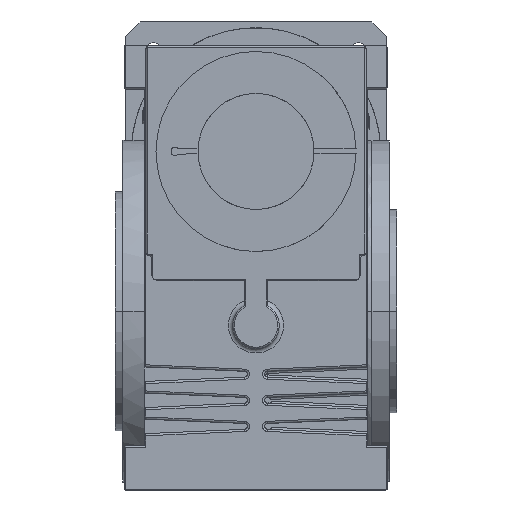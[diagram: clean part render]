
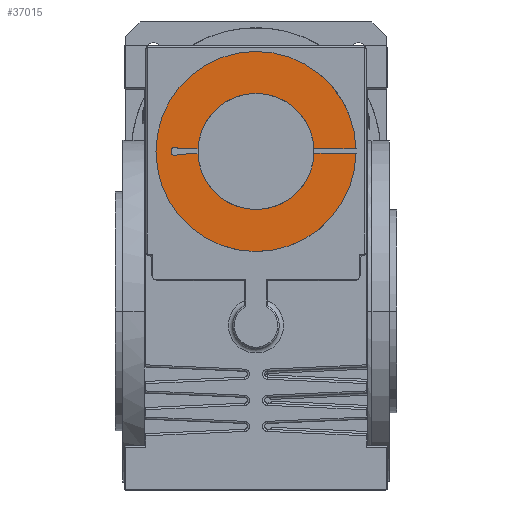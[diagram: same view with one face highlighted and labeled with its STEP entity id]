
A CAD part, top view. The second image highlights one B-rep face of the part: STEP entity #37015.
In plain terms, the highlighted planar face has unit normal (0, 0, 1).
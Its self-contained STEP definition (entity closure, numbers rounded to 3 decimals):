
#32 = CARTESIAN_POINT ( 'NONE',  ( 0., 110., 151.75 ) ) ;
#2816 = AXIS2_PLACEMENT_3D ( 'NONE', #55144, #49443, #39641 ) ;
#3433 = DIRECTION ( 'NONE',  ( 1., 0., 0. ) ) ;
#6496 = EDGE_CURVE ( 'NONE', #11795, #29414, #62085, .T. ) ;
#6580 = DIRECTION ( 'NONE',  ( 1., 0., 0. ) ) ;
#6729 = DIRECTION ( 'NONE',  ( 0., 0., -1. ) ) ;
#6870 = CARTESIAN_POINT ( 'NONE',  ( -58.595, 110., 151.75 ) ) ;
#9274 = DIRECTION ( 'NONE',  ( 1., 0., 0. ) ) ;
#9608 = EDGE_CURVE ( 'NONE', #31025, #11795, #64934, .T. ) ;
#10547 = ORIENTED_EDGE ( 'NONE', *, *, #46167, .T. ) ;
#11795 = VERTEX_POINT ( 'NONE', #66334 ) ;
#12277 = DIRECTION ( 'NONE',  ( 0., 0., 1. ) ) ;
#12299 = CARTESIAN_POINT ( 'NONE',  ( -69., 110., 151.75 ) ) ;
#13390 = DIRECTION ( 'NONE',  ( 0., 0., 1. ) ) ;
#14177 = CIRCLE ( 'NONE', #2816, 69. ) ;
#14194 = CARTESIAN_POINT ( 'NONE',  ( 39.985, 111.762, 151.75 ) ) ;
#15702 = EDGE_LOOP ( 'NONE', ( #29615, #58902, #67537, #18609, #20797, #25439, #66002, #53809, #22540, #10547 ) ) ;
#15950 = LINE ( 'NONE', #48386, #48617 ) ;
#16032 = DIRECTION ( 'NONE',  ( 0., 0., -1. ) ) ;
#16319 = EDGE_CURVE ( 'NONE', #36011, #18263, #64016, .T. ) ;
#16859 = AXIS2_PLACEMENT_3D ( 'NONE', #48689, #6729, #43250 ) ;
#18263 = VERTEX_POINT ( 'NONE', #49962 ) ;
#18609 = ORIENTED_EDGE ( 'NONE', *, *, #16319, .T. ) ;
#19349 = CARTESIAN_POINT ( 'NONE',  ( 0., 110., 151.75 ) ) ;
#19795 = DIRECTION ( 'NONE',  ( 0., 0., -1. ) ) ;
#19952 = VERTEX_POINT ( 'NONE', #20592 ) ;
#20453 = VECTOR ( 'NONE', #31207, 1000. ) ;
#20560 = VERTEX_POINT ( 'NONE', #56741 ) ;
#20592 = CARTESIAN_POINT ( 'NONE',  ( -39.988, 108.288, 151.75 ) ) ;
#20797 = ORIENTED_EDGE ( 'NONE', *, *, #32667, .T. ) ;
#21275 = VECTOR ( 'NONE', #3433, 1000. ) ;
#22406 = CARTESIAN_POINT ( 'NONE',  ( -55.723, 110., 151.75 ) ) ;
#22540 = ORIENTED_EDGE ( 'NONE', *, *, #30451, .T. ) ;
#24613 = AXIS2_PLACEMENT_3D ( 'NONE', #58318, #12277, #6580 ) ;
#24862 = CARTESIAN_POINT ( 'NONE',  ( 39.999, 108.585, 151.75 ) ) ;
#25439 = ORIENTED_EDGE ( 'NONE', *, *, #9608, .T. ) ;
#25545 = CARTESIAN_POINT ( 'NONE',  ( 39.999, 108.585, 151.75 ) ) ;
#26008 = AXIS2_PLACEMENT_3D ( 'NONE', #64687, #13390, #33407 ) ;
#26062 = DIRECTION ( 'NONE',  ( 1., 0., 0. ) ) ;
#26158 = CIRCLE ( 'NONE', #50088, 2.872 ) ;
#28624 = VERTEX_POINT ( 'NONE', #12299 ) ;
#29385 = DIRECTION ( 'NONE',  ( 1., 0., 0. ) ) ;
#29414 = VERTEX_POINT ( 'NONE', #29917 ) ;
#29615 = ORIENTED_EDGE ( 'NONE', *, *, #49146, .T. ) ;
#29917 = CARTESIAN_POINT ( 'NONE',  ( 68.977, 111.762, 151.75 ) ) ;
#30451 = EDGE_CURVE ( 'NONE', #28624, #20560, #49554, .T. ) ;
#31025 = VERTEX_POINT ( 'NONE', #54537 ) ;
#31207 = DIRECTION ( 'NONE',  ( -1., -0.004, 0. ) ) ;
#31339 = EDGE_CURVE ( 'NONE', #19952, #40599, #15950, .T. ) ;
#31858 = FACE_OUTER_BOUND ( 'NONE', #15702, .T. ) ;
#32125 = VECTOR ( 'NONE', #52222, 1000. ) ;
#32667 = EDGE_CURVE ( 'NONE', #18263, #31025, #59090, .T. ) ;
#33407 = DIRECTION ( 'NONE',  ( 1., 0., 0. ) ) ;
#35767 = AXIS2_PLACEMENT_3D ( 'NONE', #19349, #19795, #29385 ) ;
#36011 = VERTEX_POINT ( 'NONE', #6870 ) ;
#36731 = CARTESIAN_POINT ( 'NONE',  ( -53.455, 111.762, 151.75 ) ) ;
#37015 = ADVANCED_FACE ( 'NONE', ( #31858 ), #37346, .T. ) ;
#37346 = PLANE ( 'NONE',  #24613 ) ;
#39641 = DIRECTION ( 'NONE',  ( 1., 0., 0. ) ) ;
#40599 = VERTEX_POINT ( 'NONE', #57683 ) ;
#40713 = EDGE_CURVE ( 'NONE', #29414, #28624, #14177, .T. ) ;
#43250 = DIRECTION ( 'NONE',  ( 1., 0., 0. ) ) ;
#45937 = EDGE_CURVE ( 'NONE', #40599, #36011, #26158, .T. ) ;
#46167 = EDGE_CURVE ( 'NONE', #20560, #62915, #59569, .T. ) ;
#48386 = CARTESIAN_POINT ( 'NONE',  ( -53.455, 108.238, 151.75 ) ) ;
#48617 = VECTOR ( 'NONE', #59500, 1000. ) ;
#48689 = CARTESIAN_POINT ( 'NONE',  ( -55.723, 110., 151.75 ) ) ;
#49146 = EDGE_CURVE ( 'NONE', #62915, #19952, #62628, .T. ) ;
#49443 = DIRECTION ( 'NONE',  ( 0., 0., 1. ) ) ;
#49554 = CIRCLE ( 'NONE', #26008, 69. ) ;
#49962 = CARTESIAN_POINT ( 'NONE',  ( -53.455, 111.762, 151.75 ) ) ;
#50088 = AXIS2_PLACEMENT_3D ( 'NONE', #22406, #53304, #9274 ) ;
#52222 = DIRECTION ( 'NONE',  ( 1., 0., 0. ) ) ;
#53304 = DIRECTION ( 'NONE',  ( 0., 0., -1. ) ) ;
#53809 = ORIENTED_EDGE ( 'NONE', *, *, #40713, .T. ) ;
#54537 = CARTESIAN_POINT ( 'NONE',  ( -39.985, 111.762, 151.75 ) ) ;
#55144 = CARTESIAN_POINT ( 'NONE',  ( 0., 110., 151.75 ) ) ;
#55302 = AXIS2_PLACEMENT_3D ( 'NONE', #32, #16032, #26062 ) ;
#56741 = CARTESIAN_POINT ( 'NONE',  ( 68.988, 108.693, 151.75 ) ) ;
#57683 = CARTESIAN_POINT ( 'NONE',  ( -53.455, 108.238, 151.75 ) ) ;
#58318 = CARTESIAN_POINT ( 'NONE',  ( 0., 110., 151.75 ) ) ;
#58902 = ORIENTED_EDGE ( 'NONE', *, *, #31339, .T. ) ;
#59090 = LINE ( 'NONE', #36731, #32125 ) ;
#59500 = DIRECTION ( 'NONE',  ( -1., -0.004, 0. ) ) ;
#59569 = LINE ( 'NONE', #25545, #20453 ) ;
#62085 = LINE ( 'NONE', #14194, #21275 ) ;
#62628 = CIRCLE ( 'NONE', #35767, 40.024 ) ;
#62915 = VERTEX_POINT ( 'NONE', #24862 ) ;
#64016 = CIRCLE ( 'NONE', #16859, 2.872 ) ;
#64687 = CARTESIAN_POINT ( 'NONE',  ( 0., 110., 151.75 ) ) ;
#64934 = CIRCLE ( 'NONE', #55302, 40.024 ) ;
#66002 = ORIENTED_EDGE ( 'NONE', *, *, #6496, .T. ) ;
#66334 = CARTESIAN_POINT ( 'NONE',  ( 39.985, 111.762, 151.75 ) ) ;
#67537 = ORIENTED_EDGE ( 'NONE', *, *, #45937, .T. ) ;
